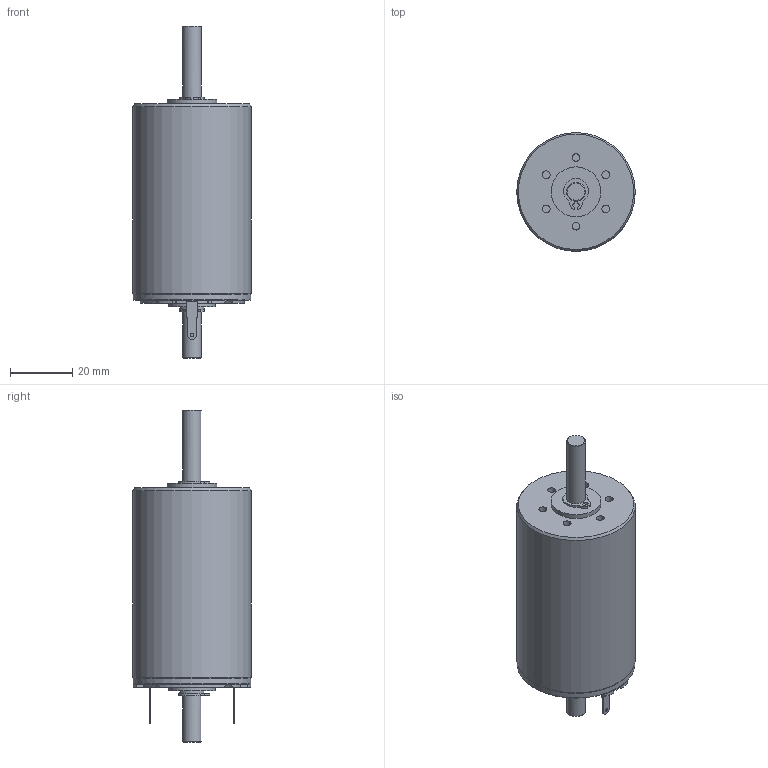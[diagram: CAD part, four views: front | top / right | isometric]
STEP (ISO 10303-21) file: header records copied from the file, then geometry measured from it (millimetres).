
FILE_DESCRIPTION(/* description */ (''),/* implementation_level */ '2;1');
FILE_NAME(/* name */ '3863.CR.stp',/* time_stamp */ '2013-08-29T15:10:21+02:00',/* author */ ('DR. FRITZ FAULHABER GmbH & Co. KG'),/* organization */ ('DR. FRITZ FAULHABER GmbH & Co. KG'),/* preprocessor_version */ 'ST-DEVELOPER v11',/* originating_system */ 'SIEMENS PLM Software NX 7.5',/* authorisation */ '');
FILE_SCHEMA (('AUTOMOTIVE_DESIGN { 1 0 10303 214 1 1 1 1 }'));
Length unit declared in the file: millimetre
Products named in the file (1): 3863.CR
Bounding box: 38 x 38 x 106.5 mm (x, y, z)
Volume: 73834.8 mm3; surface area: 11205.9 mm2
Topology: 1 solids, 1 shells, 168 faces, 401 edges, 261 vertices
Faces by surface type: plane 88, cylinder 65, cone 15
Full cylindrical faces by diameter (mm): 1.2 x5, 1.6 x2, 2.4 x3, 2.5 x9, 2.75 x3, 6 x2, 8 x1, 15 x1, 16 x1, 37.8 x1, 38 x1
Entity records: 4736 total; most frequent: DIRECTION 870, CARTESIAN_POINT 811, ORIENTED_EDGE 724, EDGE_CURVE 362, AXIS2_PLACEMENT_3D 347, VERTEX_POINT 256, EDGE_LOOP 232, CIRCLE 178
